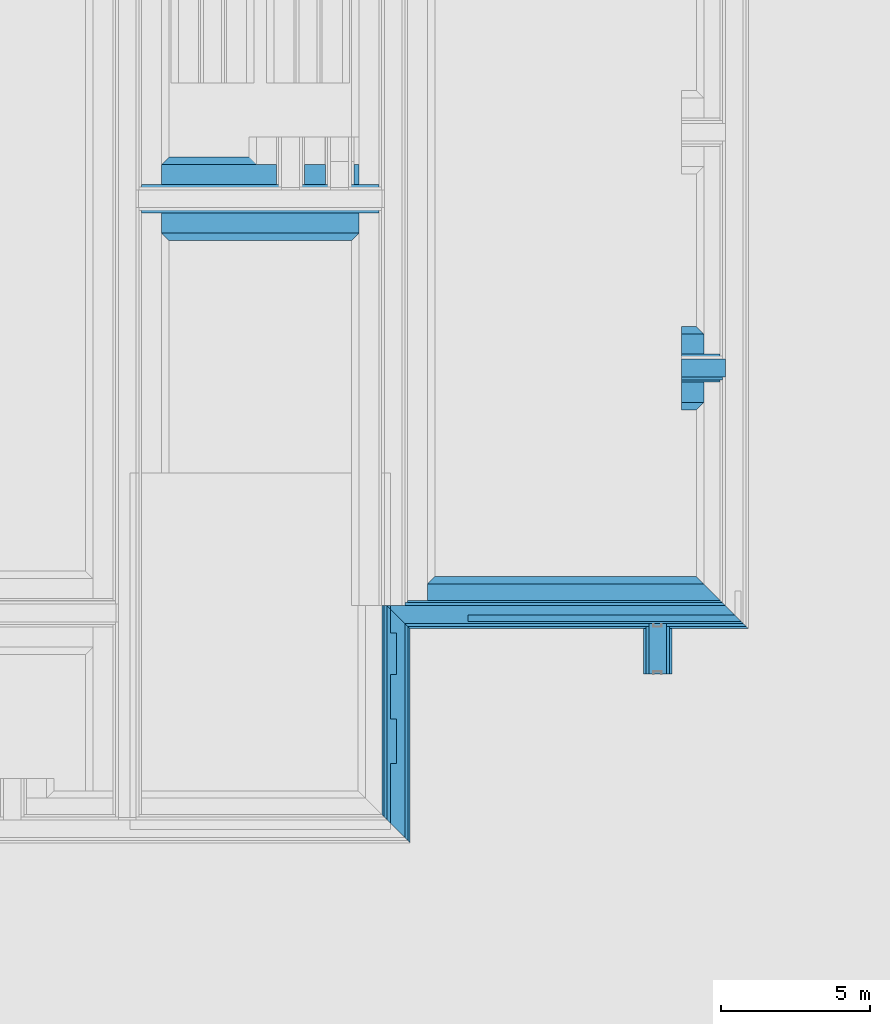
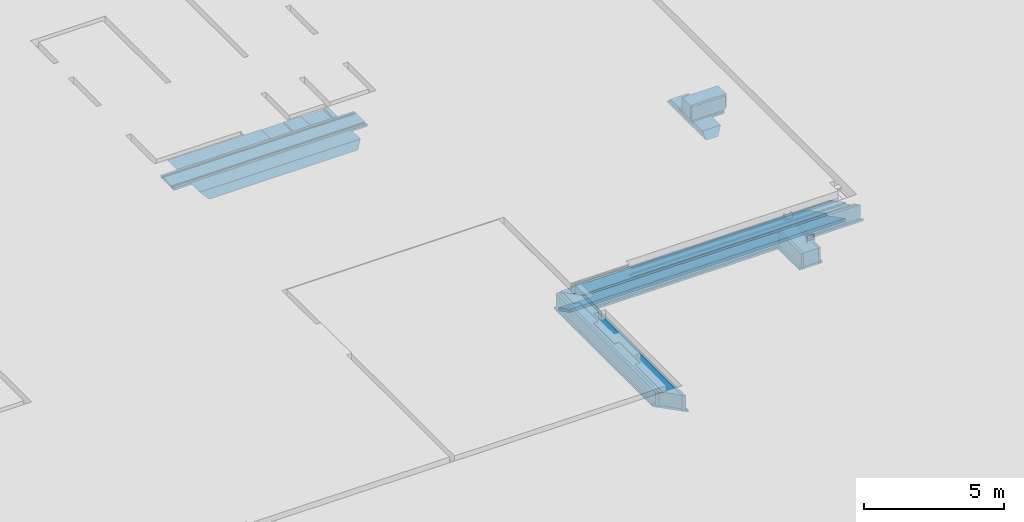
# One storey, part 9 of 15: 19 building element parts, 5 elements without a shape of their own.
"""IFC2X3 building model written with IfcOpenShell, lengths in millimetres."""

from ifc_helpers import new_model, entity, si_unit, converted_unit, derived_unit, money_unit, direction, frame, origin_with_axes, place, context, subcontext, project, spatial, faceted_brep, material, type_object, element, aggregate, save


model = new_model("IFC2X3")

# Units and contexts
model_context = context("Model", 3, precision=0.01, world=origin_with_axes(), true_north=direction((0.0, 1.0)))
plan_context = context("Plan", 3, precision=0.01, world=origin_with_axes(), true_north=direction((0.0, 1.0)))
body_context = subcontext(model_context, "Body", "Model", "MODEL_VIEW")
ifc_project = project(units=[si_unit("LENGTHUNIT", "METRE", prefix="MILLI"), si_unit("AREAUNIT", "SQUARE_METRE"), si_unit("VOLUMEUNIT", "CUBIC_METRE"), converted_unit("PLANEANGLEUNIT", "DEGREE", entity("IfcPlaneAngleMeasure", 0.0174532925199), si_unit("PLANEANGLEUNIT", "RADIAN"), dimensions=[0, 0, 0, 0, 0, 0, 0]), money_unit("EUR"), converted_unit("TIMEUNIT", "Year", entity("IfcTimeMeasure", 31556926.0), si_unit("TIMEUNIT", "SECOND"), dimensions=[0, 0, 1, 0, 0, 0, 0]), si_unit("MASSUNIT", "GRAM", prefix="KILO"), si_unit("THERMODYNAMICTEMPERATUREUNIT", "DEGREE_CELSIUS"), si_unit("LUMINOUSINTENSITYUNIT", "LUMEN"), si_unit("ENERGYUNIT", "JOULE", prefix="MEGA"), derived_unit("THERMALCONDUCTANCEUNIT", [(si_unit("POWERUNIT", "WATT"), 1), (si_unit("LENGTHUNIT", "METRE"), -1), (si_unit("THERMODYNAMICTEMPERATUREUNIT", "KELVIN"), -1)]), derived_unit("SPECIFICHEATCAPACITYUNIT", [(si_unit("ENERGYUNIT", "JOULE"), 1), (si_unit("MASSUNIT", "GRAM", prefix="KILO"), -1), (si_unit("THERMODYNAMICTEMPERATUREUNIT", "KELVIN"), -1)]), derived_unit("MASSDENSITYUNIT", [(si_unit("MASSUNIT", "GRAM", prefix="KILO"), 1), (si_unit("VOLUMEUNIT", "CUBIC_METRE"), -1)])], contexts=[model_context, plan_context])

# Site, building, storey
site_placement = place(None, origin_with_axes())
site = spatial("IfcSite", under=ifc_project, at=site_placement, Name="Site", CompositionType="ELEMENT")
building_placement = place(site_placement, origin_with_axes())
building = spatial("IfcBuilding", under=site, at=building_placement, Name="Naam gebouw", CompositionType="ELEMENT")
storey_placement = place(building_placement, frame((0.0, 0.0, -1050.0), z_axis=(0.0, 0.0, 1.0), x_axis=(1.0, 0.0, 0.0)))
storey = spatial("IfcBuildingStorey", under=building, at=storey_placement, Name="fundering", CompositionType="ELEMENT", Elevation=-1050.0)

# Beam, building element parts
beam_type_1 = type_object("IfcBeamType", Name="Fundering balk IsoBouw Powerkist buitenwand 1750 x 850", PredefinedType="BEAM")
beam_1_placement = place(storey_placement, frame((56024.9999775, 12050.0000337, -60.0000017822), z_axis=(0.0, 0.0, 1.0), x_axis=(0.0, 1.0, 0.0)))
beam_1 = element("IfcBeam", 1, at=beam_1_placement, inside=storey, type_object=beam_type_1, Name="28_Balk-x", ObjectType="BEAM")
ifc_material_1 = material(Name="ALG - TERREIN")
building_element_part_1_placement = place(beam_1_placement, origin_with_axes())
building_element_part_1 = element("IfcBuildingElementPart", 2, at=building_element_part_1_placement, material=ifc_material_1, Name="ALG - TERREIN", context=body_context, shape_type="Brep", body=[
    faceted_brep([(320.000053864, 11690.000006, -249.999996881), (320.000053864, 10079.9996019, -249.999996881), (1295.00000274, 10079.9996019, -249.999996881), (1295.00000274, 1295.00000274, -249.999996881), (20.0000061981, 20.0000061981, -249.999996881), (20.0000061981, 11389.9999993, -249.999996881), (320.000053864, 11690.000047, -100.000005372), (320.000053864, 11004.9995818, -99.9999926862), (320.000012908, 10229.9996061, -99.9999926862), (1045.00001313, 10329.9995796, 7.15338899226e-07), (495.00000274, 10229.9996019, -99.9999968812), (495.00000274, 10329.9995796, 7.15338899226e-07), (1045.00001313, 1045.00001313, -7.27431315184e-06), (495.000015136, 495.000015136, -7.27431315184e-06), (495.000015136, 495.000015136, -99.9999926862), (20.0000061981, 20.0000061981, -99.9999926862), (20.0000061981, 11389.9999993, -99.9999926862)], [[[0, 1, 2, 3, 4, 5]], [[1, 0, 6, 7, 8]], [[9, 2, 1, 8, 10, 11]], [[2, 9, 12, 3]], [[3, 12, 13, 14, 15, 4]], [[15, 16, 5, 4]], [[6, 0, 5, 16]], [[7, 6, 16, 15, 14, 10, 8]], [[11, 10, 14, 13]], [[9, 11, 13, 12]]]),
])
ifc_material_2 = material(Name="Isolatie - EPS")
building_element_part_2_placement = place(beam_1_placement, origin_with_axes())
building_element_part_2 = element("IfcBuildingElementPart", 3, at=building_element_part_2_placement, material=ifc_material_2, Name="Isolatie - EPS", context=body_context, shape_type="Brep", body=[
    faceted_brep([(495.00000274, 11004.9996019, -99.9999968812), (495.00000274, 11004.9996019, 8.43651903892e-06), (495.00000274, 495.00000274, 7.15338899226e-07), (495.00000274, 495.00000274, -99.9999968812), (419.999990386, 11004.9996019, 8.43651903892e-06), (320.000053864, 11004.9996019, -99.9999968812), (320.000053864, 11004.9996019, -49.0824410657), (400.000002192, 11004.9996019, -49.0824424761), (400.000002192, 11004.9996019, 8.43651903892e-06), (419.999990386, 419.999990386, 7.15338899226e-07), (400.000002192, 400.000002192, 7.15338899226e-07), (400.000002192, 400.000002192, -49.0824410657), (319.99999279, 319.99999279, -49.0824410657), (319.99999279, 319.99999279, 7.15338899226e-07), (-279.99999279, -279.99999279, 7.15338899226e-07), (-279.99999279, -279.99999279, -49.0824410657), (-360.000002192, -360.000002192, -49.0824410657), (-360.000002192, -360.000002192, 7.15338899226e-07), (-379.999990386, -379.999990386, 7.15338899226e-07), (-455.00000274, -455.00000274, 7.15338899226e-07), (-455.00000274, -455.00000274, -99.9999968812), (20.0000061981, 20.0000061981, -99.9999926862), (20.0000061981, 11389.9999993, -99.9999926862), (320.000053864, 11690.000047, -99.9999968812), (320.000053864, 11689.9999859, -49.0824410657), (319.99999279, 11689.9999859, 7.15338899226e-07), (-279.99999279, 11090.0000003, 7.15338899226e-07), (-279.99999279, 11090.0000003, -49.0824410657), (-360.000002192, 11009.9999909, -49.0824410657), (-360.000002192, 11009.9999909, 7.15338899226e-07), (-379.999990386, 10990.0000027, 7.15338899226e-07), (-455.00000274, 10914.9999904, 7.15338899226e-07), (-455.00000274, 10914.9999904, -99.9999968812)], [[[0, 1, 2, 3]], [[4, 1, 0, 5, 6, 7, 8]], [[1, 4, 9, 2]], [[2, 9, 10, 11, 12, 13, 14, 15, 16, 17, 18, 19, 20, 21, 3]], [[5, 0, 3, 21, 22, 23]], [[24, 25, 13, 12, 6, 5, 23]], [[7, 6, 12, 11]], [[8, 7, 11, 10]], [[4, 8, 10, 9]], [[14, 13, 25, 26]], [[15, 14, 26, 27]], [[16, 15, 27, 28]], [[17, 16, 28, 29]], [[18, 17, 29, 30]], [[19, 18, 30, 31]], [[20, 19, 31, 32]], [[21, 20, 32, 22]], [[24, 23, 22, 32, 31, 30, 29, 28, 27, 26, 25]]]),
])
building_element_part_3_placement = place(beam_1_placement, origin_with_axes())
building_element_part_3 = element("IfcBuildingElementPart", 4, at=building_element_part_3_placement, material=ifc_material_2, Name="Isolatie - EPS", context=body_context, shape_type="Brep", body=[
    faceted_brep([(-280.0, 2890.00122046, 600.0), (-280.0, 2890.00122046, 0.0), (-280.0, 2289.99997751, 0.0), (-280.0, 2289.99997751, 600.0), (-279.999999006, -279.999999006, 600.000001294), (-279.999999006, -279.999999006, -49.0824424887), (-279.999999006, 11089.9999941, -49.0824424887), (-279.999999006, 11089.9999941, 600.000001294), (-359.999996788, 2890.00122046, 0.0), (-379.999993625, 2890.00122046, 600.0), (-379.999993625, 2890.00122046, 0.0), (-359.999996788, 2289.99997751, 0.0), (-379.999993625, 2289.99997751, 0.0), (-379.999993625, 2289.99997751, 600.0), (-379.999993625, -379.999993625, 600.000001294), (-379.999993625, -379.999993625, 2.28759100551e-06), (-359.999996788, -359.999996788, 2.28759100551e-06), (-359.999996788, -359.999996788, -49.0824424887), (-359.999996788, 11009.9999963, -49.0824424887), (-359.999996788, 11009.9999963, 2.28759100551e-06), (-379.999993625, 10989.9999995, 2.28759100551e-06), (-379.999993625, 10989.9999995, 600.000001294)], [[[0, 1, 2, 3, 4, 5, 6, 7]], [[8, 1, 0, 9, 10]], [[11, 2, 1, 8]], [[12, 13, 3, 2, 11]], [[4, 3, 13, 14]], [[4, 14, 15, 16, 17, 5]], [[5, 17, 18, 6]], [[18, 19, 20, 21, 7, 6]], [[21, 9, 0, 7]], [[20, 10, 9, 21]], [[19, 8, 10, 20]], [[16, 11, 8, 19, 18, 17]], [[14, 13, 12, 15]], [[15, 12, 11, 16]]]),
])
building_element_part_4_placement = place(beam_1_placement, origin_with_axes())
building_element_part_4 = element("IfcBuildingElementPart", 5, at=building_element_part_4_placement, material=ifc_material_2, Name="Isolatie - EPS", context=body_context, shape_type="Brep", body=[
    faceted_brep([(399.999996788, 399.999996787, 4.06975675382e-06), (399.999996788, 399.999996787, -49.0824407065), (399.999996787, 11004.9996019, -49.0824424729), (399.999996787, 11004.9996019, 8.43651903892e-06), (419.999993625, 419.999993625, 4.06975675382e-06), (419.999993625, 419.999993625, 600.000003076), (319.999999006, 319.999999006, 600.000003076), (319.999999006, 319.999999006, -49.0824407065), (320.000053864, 11004.9996019, -49.082442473), (320.000053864, 11004.9996019, 8.43651903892e-06), (399.999996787, 11079.9996165, 8.43651903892e-06), (419.999993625, 11079.999611, 2.42299313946e-06), (419.999993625, 11079.999611, 600.000004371), (320.000053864, 11079.999611, 600.000004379), (320.000053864, 11079.9996165, 8.43651903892e-06)], [[[0, 1, 2, 3]], [[1, 0, 4, 5, 6, 7]], [[1, 7, 8, 2]], [[8, 9, 3, 2]], [[4, 0, 3, 10, 11]], [[5, 4, 11, 12]], [[6, 5, 12, 13]], [[13, 14, 9, 8, 7, 6]], [[9, 14, 10, 3]], [[12, 11, 10, 14, 13]]]),
])
ifc_material_3 = material(Name="Beton gewapend C")
building_element_part_5_placement = place(beam_1_placement, origin_with_axes())
building_element_part_5 = element("IfcBuildingElementPart", 6, at=building_element_part_5_placement, material=ifc_material_3, Name="Beton gewapend C", context=body_context, shape_type="Brep", body=[
    faceted_brep([(320.0, 11689.9999931, 570.000001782), (320.0, 11579.9992704, 570.000001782), (320.0, 11579.9992704, 600.000001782), (320.0, 320.0, 600.000001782), (320.0, 320.0, 1.78216530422e-06), (320.0, 11689.9999931, 1.78216530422e-06), (209.999277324, 11579.9992704, 570.000001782), (209.999277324, 11579.9992704, 600.000001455), (-280.0, 11089.9999931, 600.0), (-280.0, -280.0, 600.0), (-210.000073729, -210.000073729, 600.000000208), (-210.000057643, 8969.99997751, 600.000000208), (1.33961659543e-05, 8969.99997751, 600.000000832), (1.33961624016e-05, 1.33961535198e-05, 600.000000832), (-280.0, -280.0, 0.0), (1.35600668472e-05, -8.94500828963e-06, 540.000001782), (-210.000073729, -210.000080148, 540.000001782), (-280.0, 11089.9999931, 0.0), (-210.000057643, -139.999960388, 540.000001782), (-210.000057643, 8969.99997751, 540.000001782), (1.35600721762e-05, 8969.99997751, 540.000001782)], [[[0, 1, 2, 3, 4, 5]], [[1, 0, 6]], [[7, 2, 1, 6]], [[2, 7, 8, 9, 10, 11, 12, 13, 3]], [[14, 4, 3, 13, 15, 16, 10, 9]], [[14, 17, 5, 4]], [[6, 0, 5, 17, 8, 7]], [[9, 8, 17, 14]], [[18, 19, 11, 10, 16]], [[20, 12, 11, 19]], [[13, 12, 20, 15]], [[15, 20, 19, 18, 16]]]),
])
aggregate(beam_1, [building_element_part_1, building_element_part_2, building_element_part_3, building_element_part_4, building_element_part_5])

beam_2_placement = place(storey_placement, frame((44654.9999844, 12050.0000337, -60.0000017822), z_axis=(0.0, 0.0, 1.0), x_axis=(-1.0, 0.0, 0.0)))
beam_2 = element("IfcBeam", 7, at=beam_2_placement, inside=storey, type_object=beam_type_1, Name="28_Balk-x", ObjectType="BEAM")
building_element_part_6_placement = place(beam_2_placement, origin_with_axes())
building_element_part_6 = element("IfcBuildingElementPart", 8, at=building_element_part_6_placement, material=ifc_material_2, Name="Isolatie - EPS", context=body_context, shape_type="Brep", body=[
    faceted_brep([(320.000053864, -320.000053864, -99.9999968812), (319.99999279, -320.000053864, -49.0824410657), (319.99999279, -319.99999279, 7.15338899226e-07), (-279.99999279, 279.99999279, 7.15338899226e-07), (-279.99999279, 279.99999279, -49.0824410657), (-360.000002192, 360.000002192, -49.0824410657), (-360.000002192, 360.000002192, 7.15338899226e-07), (-379.999990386, 379.999990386, 7.15338899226e-07), (-455.00000274, 455.00000274, 7.15338899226e-07), (-455.00000274, 455.00000274, -99.9999968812), (20.0000061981, -20.0000061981, -99.9999926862), (490.000355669, -320.000053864, 8.43651903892e-06), (419.999990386, -320.000053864, 7.15338899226e-07), (410.000354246, -320.000053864, 8.43651903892e-06), (400.000002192, -320.000053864, 8.43651903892e-06), (400.000002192, -320.000053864, -49.0824410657), (495.00000274, -320.000053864, -99.9999968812), (495.00000274, -320.000053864, 8.43651903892e-06), (319.99999279, 6880.00001951, -49.0824410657), (319.99999279, 6880.00001951, 7.15338899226e-07), (-279.99999279, 7480.00000476, 7.15338899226e-07), (-279.99999279, 7480.00000476, -49.0824410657), (-360.000002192, 7560.00001412, -49.0824410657), (-360.000002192, 7560.00001412, 7.15338899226e-07), (-379.999990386, 7580.0000023, 7.15338899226e-07), (-455.00000274, 7655.00001462, 7.15338899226e-07), (-455.00000274, 7655.00001462, -99.9999968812), (20.0000061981, 7180.00000594, -99.9999926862), (495.00000274, 6705.00000965, -99.9999968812), (495.00000274, 6705.00000965, 7.15338899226e-07), (419.999990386, 6780.00002196, 7.15338899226e-07), (400.000002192, 6800.00001015, 7.15338899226e-07), (400.000002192, 6800.00001015, -49.0824410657)], [[[0, 1, 2, 3, 4, 5, 6, 7, 8, 9, 10]], [[11, 12, 13, 14, 15, 1, 0, 16, 17]], [[1, 18, 19, 2]], [[2, 19, 20, 3]], [[3, 20, 21, 4]], [[4, 21, 22, 5]], [[5, 22, 23, 6]], [[6, 23, 24, 7]], [[7, 24, 25, 8]], [[8, 25, 26, 9]], [[9, 26, 27, 10]], [[16, 0, 10, 27, 28]], [[11, 17, 29, 30, 12]], [[14, 13, 12, 30, 31]], [[15, 14, 31, 32]], [[1, 15, 32, 18]], [[17, 16, 28, 29]], [[32, 31, 30, 29, 28, 27, 26, 25, 24, 23, 22, 21, 20, 19, 18]]]),
])
building_element_part_7_placement = place(beam_2_placement, origin_with_axes())
building_element_part_7 = element("IfcBuildingElementPart", 9, at=building_element_part_7_placement, material=ifc_material_2, Name="Isolatie - EPS", context=body_context, shape_type="Brep", body=[
    faceted_brep([(-379.999993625, 7580.00000554, 2.28759100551e-06), (-359.999996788, 7560.00000872, 2.28759100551e-06), (-359.999996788, 359.999996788, 2.28759100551e-06), (-379.999993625, 379.999993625, 2.28759100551e-06), (-379.999993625, 7580.00000554, 600.000001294), (-279.999999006, 7480.00001098, 600.000001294), (-279.999999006, 7480.00001098, -49.0824424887), (-359.999996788, 7560.00000872, -49.0824424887), (-359.999996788, 359.999996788, -49.0824424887), (-279.999999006, 279.999999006, -49.0824424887), (-279.999999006, 279.999999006, 600.000001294), (-379.999993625, 379.999993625, 600.000001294)], [[[0, 1, 2, 3]], [[0, 4, 5, 6, 7, 1]], [[1, 7, 8, 2]], [[3, 2, 8, 9, 10, 11]], [[4, 0, 3, 11]], [[5, 4, 11, 10]], [[6, 5, 10, 9]], [[7, 6, 9, 8]]]),
])
building_element_part_8_placement = place(beam_2_placement, origin_with_axes())
building_element_part_8 = element("IfcBuildingElementPart", 10, at=building_element_part_8_placement, material=ifc_material_2, Name="Isolatie - EPS", context=body_context, shape_type="Brep", body=[
    faceted_brep([(419.999993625, -320.000053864, 570.000001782), (319.999999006, -320.000053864, 570.000001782), (319.999999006, -320.000053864, -49.0824407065), (399.999996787, -320.000053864, -49.0824407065), (399.999996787, -320.000053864, 8.43651903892e-06), (410.000354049, -320.000053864, 0.0), (419.999993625, -320.000053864, 4.06975675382e-06), (319.999999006, 6880.00001329, 570.000001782), (419.999993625, 6780.00001872, 570.000001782), (319.999999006, 6880.00001329, -49.0824407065), (399.999996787, 6800.00001555, -49.0824407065), (399.999996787, 6800.00001555, 4.06975675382e-06), (419.999993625, 6780.00001872, 4.06975675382e-06)], [[[0, 1, 2, 3, 4, 5, 6]], [[7, 1, 0, 8]], [[1, 7, 9, 2]], [[10, 3, 2, 9]], [[11, 4, 3, 10]], [[12, 6, 5, 4, 11]], [[8, 0, 6, 12]], [[7, 8, 12, 11, 10, 9]]]),
])
building_element_part_9_placement = place(beam_2_placement, origin_with_axes())
building_element_part_9 = element("IfcBuildingElementPart", 11, at=building_element_part_9_placement, material=ifc_material_3, Name="Beton gewapend C", context=body_context, shape_type="Brep", body=[
    faceted_brep([(209.999277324, -209.999277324, 600.000001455), (209.999277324, 599.999594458, 600.000001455), (-0.000180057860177, 600.000123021, 600.000000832), (-0.000356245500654, 1999.99997059, 600.000000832), (209.999453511, 1999.99997059, 600.000001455), (209.999453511, 3484.99044516, 600.000001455), (-0.000356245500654, 3484.99044516, 600.000000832), (-0.000180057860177, 4984.99052095, 600.000000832), (209.999805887, 4984.99052095, 600.000001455), (209.999805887, 6990.00020635, 600.000001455), (-280.0, 7480.00001197, 600.0), (-280.0, 280.0, 600.0), (209.999277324, -209.999277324, 570.000001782), (209.999277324, 599.999594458, 570.000001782), (-0.000180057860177, 600.000123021, 570.000001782), (-0.000356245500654, 1999.99997059, 570.000001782), (209.999453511, 1999.99997059, 570.000001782), (209.999453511, 3484.99044516, 570.000001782), (-0.000356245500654, 3484.99044516, 570.000001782), (-0.000180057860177, 4984.99052095, 570.000001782), (209.999805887, 4984.99052095, 570.000001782), (209.999805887, 6990.00020635, 570.000001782), (320.0, 6880.0000123, 570.000001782), (320.0, 6880.0000123, 1.78216552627e-06), (-280.0, 7480.00001197, 0.0), (-280.0, 280.0, 0.0), (320.0, -320.0, 1.78216552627e-06), (320.0, -320.0, 570.000001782)], [[[0, 1, 2, 3, 4, 5, 6, 7, 8, 9, 10, 11]], [[1, 0, 12, 13]], [[2, 1, 13, 14]], [[3, 2, 14, 15]], [[4, 3, 15, 16]], [[5, 4, 16, 17]], [[6, 5, 17, 18]], [[7, 6, 18, 19]], [[8, 7, 19, 20]], [[9, 8, 20, 21]], [[21, 22, 23, 24, 10, 9]], [[25, 11, 10, 24]], [[12, 0, 11, 25, 26, 27]], [[12, 27, 22, 21, 20, 19, 18, 17, 16, 15, 14, 13]], [[22, 27, 26, 23]], [[26, 25, 24, 23]]]),
])
aggregate(beam_2, [building_element_part_6, building_element_part_7, building_element_part_8, building_element_part_9])

beam_type_2 = type_object("IfcBeamType", Name="Fundering balk IsoBouw Powerkist 2800 x 850", PredefinedType="BEAM")
beam_3_placement = place(storey_placement, frame((54225.0, 20350.0, -60.0000017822), z_axis=(0.0, 0.0, 1.0), x_axis=(0.0, -1.0, 0.0)))
beam_3 = element("IfcBeam", 12, at=beam_3_placement, inside=storey, type_object=beam_type_2, Name="28_Balk-x", ObjectType="BEAM")
building_element_part_10_placement = place(beam_3_placement, origin_with_axes())
building_element_part_10 = element("IfcBuildingElementPart", 13, at=building_element_part_10_placement, material=ifc_material_1, Name="ALG - TERREIN", context=body_context, shape_type="Brep", body=[
    faceted_brep([(-475.000395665, 754.999964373, -3.43363715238e-06), (-1150.00039795, 754.999964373, -3.09826120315e-06), (-1150.00039795, 0.0, -1.92126834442e-05), (-475.000395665, 0.0, 2.25106189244e-05), (-1400.00037562, 504.999974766, -249.999996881), (-475.000395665, 654.99996234, -100.000009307), (475.000395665, 654.99996234, -100.000009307), (475.000395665, 754.999964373, -3.90564802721e-06), (1150.00039795, 754.999964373, -4.24102419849e-06), (1400.00037562, 504.999974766, -249.999996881), (-1400.00037562, 0.0, -249.999996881), (1400.00037562, 0.0, -249.999996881), (1150.00039795, 0.0, -1.92126834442e-05), (475.000395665, 0.0, 2.25106189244e-05), (475.000395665, 0.0, -100.00001028), (-475.000395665, 0.0, -100.00001028)], [[[0, 1, 2, 3]], [[4, 1, 0, 5, 6, 7, 8, 9]], [[1, 4, 10, 2]], [[11, 12, 13, 14, 15, 3, 2, 10]], [[5, 0, 3, 15]], [[6, 5, 15, 14]], [[7, 6, 14, 13]], [[8, 7, 13, 12]], [[9, 8, 12, 11]], [[4, 9, 11, 10]]]),
])
building_element_part_11_placement = place(beam_3_placement, origin_with_axes())
building_element_part_11 = element("IfcBuildingElementPart", 14, at=building_element_part_11_placement, material=ifc_material_2, Name="Isolatie - EPS", context=body_context, shape_type="Brep", body=[
    faceted_brep([(-400.000361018, 1304.99997477, 7.15338899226e-07), (-475.000375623, 1304.99997477, 7.15338899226e-07), (-475.000375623, 0.0, 8.43651903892e-06), (-400.000361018, 0.0, 8.43651903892e-06), (-475.000375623, 1304.99997477, -99.9999968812), (-380.000371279, 1304.99997477, 7.15338899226e-07), (-380.000371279, 1304.99997477, -49.0824435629), (-300.000369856, 1304.99997477, -49.0824435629), (-300.000369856, 1304.99997477, 7.15338899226e-07), (300.000369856, 1304.99997477, 7.15338899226e-07), (300.000369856, 1304.99997477, -49.0824435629), (380.000371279, 1304.99997477, -49.0824435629), (380.000371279, 1304.99997477, 7.15338899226e-07), (400.000361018, 1304.99997477, 7.15338899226e-07), (475.000375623, 1304.99997477, 7.15338899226e-07), (475.000375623, 1304.99997477, -99.9999968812), (-475.000375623, 0.0, -99.9999968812), (475.000375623, 0.0, 8.43651926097e-06), (400.000361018, 0.0, 8.43651903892e-06), (380.000371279, 0.0, 8.43651903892e-06), (380.000371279, 0.0, -49.0824435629), (300.000369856, 0.0, -49.0824435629), (300.000369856, 0.0, 8.43651903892e-06), (-300.000369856, 0.0, 8.43651903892e-06), (-300.000369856, 0.0, -49.0824435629), (-380.000371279, 0.0, -49.0824435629), (-380.000371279, 0.0, 8.43651903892e-06), (475.000375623, 0.0, -99.9999968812)], [[[0, 1, 2, 3]], [[4, 1, 0, 5, 6, 7, 8, 9, 10, 11, 12, 13, 14, 15]], [[1, 4, 16, 2]], [[17, 18, 19, 20, 21, 22, 23, 24, 25, 26, 3, 2, 16, 27]], [[5, 0, 3, 26]], [[6, 5, 26, 25]], [[7, 6, 25, 24]], [[8, 7, 24, 23]], [[9, 8, 23, 22]], [[10, 9, 22, 21]], [[11, 10, 21, 20]], [[12, 11, 20, 19]], [[13, 12, 19, 18]], [[14, 13, 18, 17]], [[15, 14, 17, 27]], [[4, 15, 27, 16]]]),
])
building_element_part_12_placement = place(beam_3_placement, origin_with_axes())
building_element_part_12 = element("IfcBuildingElementPart", 15, at=building_element_part_12_placement, material=ifc_material_2, Name="Isolatie - EPS", context=body_context, shape_type="Brep", body=[
    faceted_brep([(400.000366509, 0.0, 600.000004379), (400.000366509, 1379.99998712, 600.000000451), (300.00036966, 1379.99998712, 600.000000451), (300.00036966, 0.0, 600.000004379), (400.000366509, 0.0, 2.4249691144e-06), (400.000366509, 1379.99998712, 7.15338899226e-07), (300.00036966, 1379.99998712, 7.15338899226e-07), (300.00036966, 1304.99997477, 7.15338899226e-07), (300.00036966, 1304.99997477, -49.0824424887), (300.00036966, 0.0, -49.0824424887), (380.000369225, 0.0, -49.0824424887), (380.000369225, 0.0, 2.4249691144e-06), (380.000369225, 1304.99997477, 7.15338899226e-07), (380.000369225, 1304.99997477, -49.0824424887)], [[[0, 1, 2, 3]], [[4, 5, 1, 0]], [[5, 6, 2, 1]], [[6, 7, 8, 9, 3, 2]], [[10, 11, 4, 0, 3, 9]], [[7, 6, 5, 4, 11, 12]], [[13, 8, 7, 12]], [[9, 8, 13, 10]], [[10, 13, 12, 11]]]),
])
building_element_part_13_placement = place(beam_3_placement, origin_with_axes())
building_element_part_13 = element("IfcBuildingElementPart", 16, at=building_element_part_13_placement, material=ifc_material_3, Name="Beton gewapend C", context=body_context, shape_type="Brep", body=[
    faceted_brep([(300.000372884, 0.0, 600.0), (300.000372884, 1479.99997751, 600.000001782), (-300.000372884, 1479.99997751, 600.000001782), (-300.000372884, 0.0, 600.0), (300.000372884, 0.0, 0.0), (300.000372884, 1479.99997751, 1.78216552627e-06), (-300.000372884, 1479.99997751, 1.78216552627e-06), (-300.000372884, 0.0, 0.0)], [[[0, 1, 2, 3]], [[4, 5, 1, 0]], [[5, 6, 2, 1]], [[3, 2, 6, 7]], [[3, 7, 4, 0]], [[7, 6, 5, 4]]]),
])
aggregate(beam_3, [building_element_part_10, building_element_part_11, building_element_part_12, building_element_part_13])

beam_4_placement = place(storey_placement, frame((35604.9999775, 26040.0, -60.0000017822), z_axis=(0.0, 0.0, 1.0), x_axis=(0.0, -1.0, 0.0)))
beam_4 = element("IfcBeam", 17, at=beam_4_placement, inside=storey, type_object=beam_type_2, Name="28_Balk-x", ObjectType="BEAM")
building_element_part_14_placement = place(beam_4_placement, origin_with_axes())
building_element_part_14 = element("IfcBuildingElementPart", 18, at=building_element_part_14_placement, material=ifc_material_1, Name="ALG - TERREIN", context=body_context, shape_type="Brep", body=[
    faceted_brep([(-1150.00039795, 6661.99939828, 1.05925817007e-05), (-1250.00040543, 6661.99939828, -99.9999968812), (-1250.00040543, 7612.00064672, -99.9999968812), (-1150.00039795, 7612.00064672, 1.05925817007e-05), (-1150.00039795, 7789.99962455, 2.30039653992e-06), (-1400.00037562, 7539.99964688, -249.999996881), (-1400.00037562, 1400.00039842, -249.999996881), (-1150.00039795, 1150.00042046, 7.11905889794e-06), (-1150.00039795, 5012.99939828, 1.05925817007e-05), (-1250.00037562, 5012.99939828, -99.9999968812), (-1250.00037562, 5963.00064672, -99.9999968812), (-1150.00039795, 5963.00064672, 1.05925817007e-05), (-475.000375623, 6661.99939828, 1.52455683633e-05), (-475.000375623, 6661.99939828, -99.9999968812), (-475.000375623, 7612.00064672, -99.9999968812), (-475.000375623, 5963.00064672, -99.9999968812), (-475.000375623, 5012.99939828, -99.9999968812), (-475.000395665, 1250.00041152, -100.00001028), (475.000395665, 1250.00041152, -100.00001028), (475.000395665, 7689.99963348, -100.00001028), (-475.000395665, 7689.99963348, -100.00001028), (-475.000375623, 7612.00064672, 1.52455683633e-05), (-475.000395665, 7789.99962455, 1.32054989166e-06), (475.000395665, 7789.99962455, -5.84947645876e-08), (1150.00039795, 7789.99962455, -1.0383416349e-06), (1400.00037562, 7539.99964688, -249.999996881), (1400.00037562, 1400.00039847, -249.999996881), (-475.000395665, 1150.00042046, 6.33932972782e-06), (1150.00039795, 1150.00042046, 4.4622030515e-06), (475.000395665, 1150.00042046, 5.24193222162e-06), (-475.000375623, 5012.99939828, 1.52455683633e-05), (-475.000375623, 5963.00064672, 1.52455683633e-05)], [[[0, 1, 2, 3, 4, 5, 6, 7, 8, 9, 10, 11]], [[1, 0, 12, 13]], [[14, 2, 1, 13, 15, 10, 9, 16, 17, 18, 19, 20]], [[3, 2, 14, 21]], [[3, 21, 22, 4]], [[23, 24, 25, 5, 4, 22, 20, 19]], [[5, 25, 26, 6]], [[17, 27, 7, 6, 26, 28, 29, 18]], [[27, 30, 8, 7]], [[16, 9, 8, 30]], [[31, 11, 10, 15]], [[12, 0, 11, 31]], [[13, 12, 31, 15]], [[17, 16, 30, 27]], [[23, 19, 18, 29]], [[21, 14, 20, 22]], [[24, 23, 29, 28]], [[25, 24, 28, 26]]]),
])
building_element_part_15_placement = place(beam_4_placement, origin_with_axes())
building_element_part_15 = element("IfcBuildingElementPart", 19, at=building_element_part_15_placement, material=ifc_material_2, Name="Isolatie - EPS", context=body_context, shape_type="Brep", body=[
    faceted_brep([(-475.000375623, 8464.99964688, 1.52455683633e-05), (-475.000375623, 8464.99964688, -99.9999968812), (-475.000375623, 475.000398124, -99.9999968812), (-475.000375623, 475.000398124, 1.52455683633e-05), (400.000361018, 8464.99964688, 1.52455683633e-05), (475.000375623, 8464.99964688, 1.52455683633e-05), (475.000375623, 8464.99964688, -99.9999968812), (-400.000361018, 8464.99964688, 1.52455683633e-05), (-380.000371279, 8464.99964688, 1.52455683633e-05), (-380.000371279, 8464.99964688, -49.0824435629), (-300.000369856, 8464.99964688, -49.0824435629), (-300.000369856, 8464.99964688, 1.52455683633e-05), (300.000369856, 8464.99964688, 1.52455683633e-05), (300.000369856, 8464.99964688, -49.0824435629), (380.000371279, 8464.99964688, -49.0824435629), (380.000371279, 8464.99964688, 1.52455683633e-05), (475.000375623, 475.000398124, -99.9999968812), (-380.000371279, 475.000398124, -49.0824435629), (-380.000371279, 475.000398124, 1.52455683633e-05), (-400.000361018, 475.000398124, 1.52455683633e-05), (475.000375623, 475.000398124, 1.52455683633e-05), (400.000361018, 475.000398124, 1.52455683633e-05), (380.000371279, 475.000398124, 1.52455683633e-05), (380.000371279, 475.000398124, -49.0824435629), (300.000369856, 475.000398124, -49.0824435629), (300.000369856, 475.000398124, 1.52455683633e-05), (-300.000369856, 475.000398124, 1.52455683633e-05), (-300.000369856, 475.000398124, -49.0824435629)], [[[0, 1, 2, 3]], [[4, 5, 6, 1, 0, 7, 8, 9, 10, 11, 12, 13, 14, 15]], [[1, 6, 16, 2]], [[17, 18, 19, 3, 2, 16, 20, 21, 22, 23, 24, 25, 26, 27]], [[7, 0, 3, 19]], [[5, 4, 21, 20]], [[6, 5, 20, 16]], [[8, 7, 19, 18]], [[9, 8, 18, 17]], [[10, 9, 17, 27]], [[11, 10, 27, 26]], [[12, 11, 26, 25]], [[13, 12, 25, 24]], [[14, 13, 24, 23]], [[15, 14, 23, 22]], [[4, 15, 22, 21]]]),
])
aggregate(beam_4, [building_element_part_14, building_element_part_15])

beam_type_3 = type_object("IfcBeamType", Name="Fundering balk IsoBouw Powerkist buiten 950 x 700", PredefinedType="BEAM")
beam_5_placement = place(storey_placement, frame((53434.9993785, 12050.0000337, -60.0000017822), z_axis=(0.0, 0.0, 1.0), x_axis=(-1.0, 0.0, 0.0)))
beam_5 = element("IfcBeam", 20, at=beam_5_placement, inside=storey, type_object=beam_type_3, Name="28_Balk-x", ObjectType="BEAM")
building_element_part_16_placement = place(beam_5_placement, origin_with_axes())
building_element_part_16 = element("IfcBuildingElementPart", 21, at=building_element_part_16_placement, material=ifc_material_2, Name="Isolatie - EPS", context=body_context, shape_type="Brep", body=[
    faceted_brep([(-475.000624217, 455.00000274, -99.9999968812), (-475.000624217, 455.00000274, -1.1469274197e-05), (-475.000624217, 1980.00008236, 4.14733647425e-06), (-475.000624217, 1980.00008236, -99.9999968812), (-400.000612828, 455.00000274, -1.1469274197e-05), (475.000624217, 455.00000274, -99.9999968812), (475.000624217, 455.00000274, -1.1469274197e-05), (400.000612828, 455.00000274, -1.1469274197e-05), (380.000626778, 455.00000274, -1.1469274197e-05), (380.000626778, 455.00000274, -49.0824452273), (300.000625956, 455.00000274, -49.0824452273), (300.000625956, 455.00000274, -1.1469274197e-05), (-300.000625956, 455.00000274, -1.1469274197e-05), (-300.000625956, 455.00000274, -49.0824452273), (-380.000626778, 455.00000274, -49.0824452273), (-380.000626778, 455.00000274, -1.1469274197e-05), (-400.000612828, 1980.00008236, 4.14733647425e-06), (300.000625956, 1980.00008236, -49.0824452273), (380.000626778, 1980.00008236, -49.0824452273), (380.000626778, 1980.00008236, 4.14733647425e-06), (400.000612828, 1980.00008236, 4.14733647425e-06), (475.000624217, 1980.00008236, 4.14733647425e-06), (475.000624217, 1980.00008236, -99.9999968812), (-380.000626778, 1980.00008236, 4.14733647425e-06), (-380.000626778, 1980.00008236, -49.0824452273), (-300.000625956, 1980.00008236, -49.0824452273), (-300.000625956, 1980.00008236, -1.00087986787e-05), (300.000625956, 1980.00008236, -1.00087986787e-05)], [[[0, 1, 2, 3]], [[4, 1, 0, 5, 6, 7, 8, 9, 10, 11, 12, 13, 14, 15]], [[1, 4, 16, 2]], [[17, 18, 19, 20, 21, 22, 3, 2, 16, 23, 24, 25, 26, 27]], [[5, 0, 3, 22]], [[6, 5, 22, 21]], [[7, 6, 21, 20]], [[8, 7, 20, 19]], [[9, 8, 19, 18]], [[10, 9, 18, 17]], [[11, 10, 17, 27]], [[12, 11, 27, 26]], [[13, 12, 26, 25]], [[14, 13, 25, 24]], [[15, 14, 24, 23]], [[4, 15, 23, 16]]]),
])
building_element_part_17_placement = place(beam_5_placement, origin_with_axes())
building_element_part_17 = element("IfcBuildingElementPart", 22, at=building_element_part_17_placement, material=ifc_material_2, Name="Isolatie - EPS", context=body_context, shape_type="Brep", body=[
    faceted_brep([(-400.000615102, 379.999987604, 1.46077827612e-05), (-400.000615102, 379.999987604, 600.000005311), (-400.000615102, 1980.00008236, 599.999996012), (-400.000615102, 1980.00008236, 5.99400551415e-06), (-300.000620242, 379.999987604, 600.000005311), (-300.000620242, 379.999987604, 1.46077827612e-05), (-300.000620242, 1980.00008236, 599.999996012), (-380.000624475, 1980.00008236, -49.0824424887), (-380.000624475, 1980.00008236, 5.99400551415e-06), (-300.000620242, 1980.00008236, -49.0824424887), (-380.000624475, 455.00000274, -1.1469274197e-05), (-300.000620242, 455.00000274, -1.1469274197e-05), (-300.000620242, 455.00000274, -49.0824424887), (-380.000624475, 455.00000274, -49.0824424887)], [[[0, 1, 2, 3]], [[4, 1, 0, 5]], [[1, 4, 6, 2]], [[7, 8, 3, 2, 6, 9]], [[5, 0, 3, 8, 10, 11]], [[11, 12, 9, 6, 4, 5]], [[13, 10, 8, 7]], [[12, 13, 7, 9]], [[10, 13, 12, 11]]]),
])
building_element_part_18_placement = place(beam_5_placement, origin_with_axes())
building_element_part_18 = element("IfcBuildingElementPart", 23, at=building_element_part_18_placement, material=ifc_material_2, Name="Isolatie - EPS", context=body_context, shape_type="Brep", body=[
    faceted_brep([(300.000620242, 455.00000274, -1.1469274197e-05), (300.000620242, 379.999987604, 1.46077827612e-05), (300.000620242, 379.999987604, 600.000005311), (300.000620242, 1980.00008236, 599.999996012), (300.000620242, 1980.00008236, -49.0824424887), (300.000620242, 455.00000274, -49.0824424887), (400.000615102, 379.999987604, 1.46077827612e-05), (380.000624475, 455.00000274, -1.1469274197e-05), (380.000624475, 1980.00008236, 5.99400551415e-06), (400.000615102, 1980.00008236, 5.99400551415e-06), (400.000615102, 379.999987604, 600.000005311), (400.000615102, 1980.00008236, 599.999996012), (380.000624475, 1980.00008236, -49.0824424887), (380.000624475, 455.00000274, -49.0824424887)], [[[0, 1, 2, 3, 4, 5]], [[6, 1, 0, 7, 8, 9]], [[10, 2, 1, 6]], [[2, 10, 11, 3]], [[4, 3, 11, 9, 8, 12]], [[13, 5, 4, 12]], [[0, 5, 13, 7]], [[7, 13, 12, 8]], [[10, 6, 9, 11]]]),
])
building_element_part_19_placement = place(beam_5_placement, origin_with_axes())
building_element_part_19 = element("IfcBuildingElementPart", 24, at=building_element_part_19_placement, material=ifc_material_3, Name="Beton gewapend C", context=body_context, shape_type="Brep", body=[
    faceted_brep([(-300.000621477, 280.0, 0.0), (-300.000621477, 280.0, 600.0), (-300.000621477, 1980.00008236, 600.0), (-300.000621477, 1980.00008236, 0.0), (300.000621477, 280.0, 600.0), (300.000621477, 280.0, 0.0), (300.000621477, 1980.00008236, 600.0), (300.000621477, 1980.00008236, 0.0)], [[[0, 1, 2, 3]], [[4, 1, 0, 5]], [[1, 4, 6, 2]], [[3, 2, 6, 7]], [[5, 0, 3, 7]], [[4, 5, 7, 6]]]),
])
aggregate(beam_5, [building_element_part_16, building_element_part_17, building_element_part_18, building_element_part_19])

save(model, "model.ifc")
